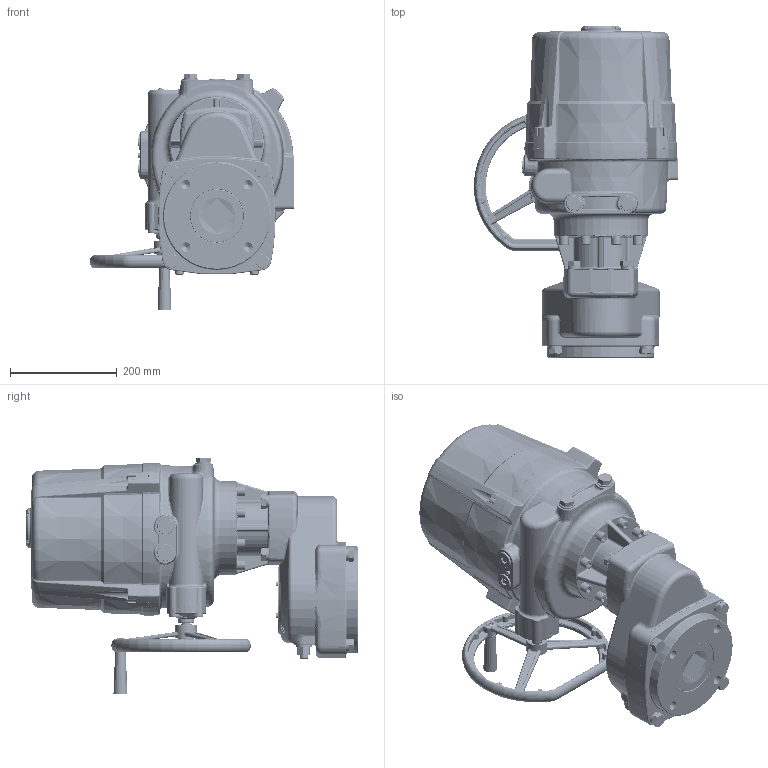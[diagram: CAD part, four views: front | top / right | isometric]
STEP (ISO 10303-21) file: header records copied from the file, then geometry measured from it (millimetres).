
FILE_DESCRIPTION (( 'STEP AP214' ), '1' );
FILE_NAME ('JYH-350-500-ぱ籵羲壽倰.STEP', '2024-07-24T01:31:06', ( 'Windows User' ), ( 'P R C' ), 'SwSTEP 2.0', 'SolidWorks 2015', '' );
FILE_SCHEMA (( 'AUTOMOTIVE_DESIGN' ));
Length unit declared in the file: millimetre
Products named in the file (1): JYH-350-500-ぱ籵羲壽倰
Bounding box: 383 x 621 x 443.53 mm (x, y, z)
Volume: 12366072.2 mm3; surface area: 1659901.1 mm2
Topology: 16 solids, 16 shells, 6120 faces, 14892 edges, 8727 vertices
Faces by surface type: bspline 1561, plane 1435, cylinder 1360, torus 1095, cone 439, sphere 230
Entity records: 276409 total; most frequent: CARTESIAN_POINT 118899, ORIENTED_EDGE 29196, DIRECTION 26108, EDGE_CURVE 14598, AXIS2_PLACEMENT_3D 10872, VERTEX_POINT 8707, EDGE_LOOP 6401, CIRCLE 6312
